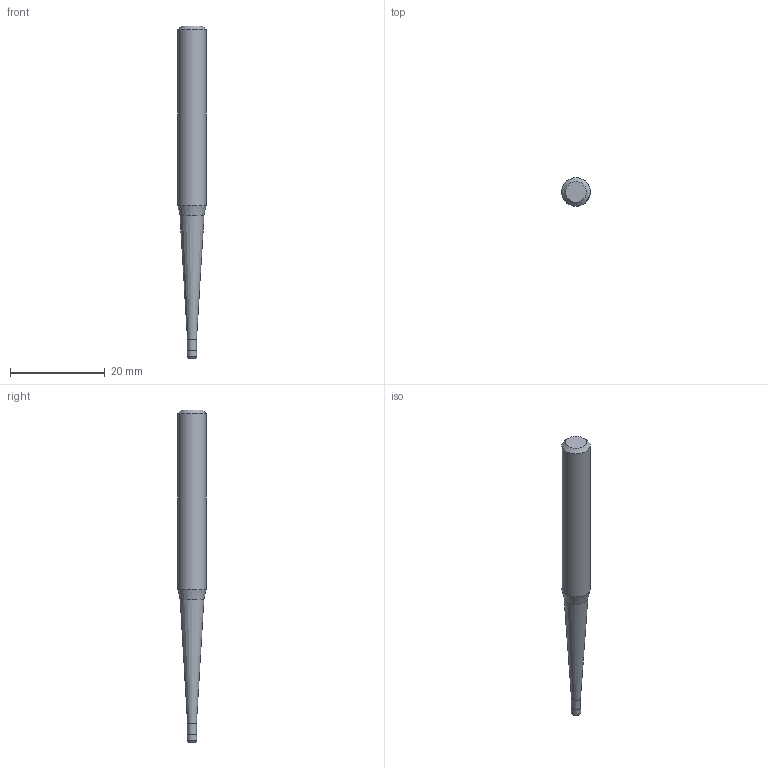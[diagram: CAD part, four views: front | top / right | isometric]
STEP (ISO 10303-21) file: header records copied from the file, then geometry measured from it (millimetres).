
FILE_DESCRIPTION((''),'2;1');
FILE_NAME('C:\Users\nsx150\AppData\Local\Temp\Mastercam 2021\YKS1SUSFZB\TEMP.step','2025-06-23T14:04:43',(''),(''),'STEP Write','Mastercam 2021 ... CNC Software, Inc.','');
FILE_SCHEMA(('AUTOMOTIVE_DESIGN'));
Length unit declared in the file: millimetre
Products named in the file (1): None
Bounding box: 6 x 6 x 70 mm (x, y, z)
Volume: 1393.6 mm3; surface area: 1088.6 mm2
Topology: 2 solids, 2 shells, 11 faces, 16 edges, 9 vertices
Faces by surface type: plane 4, cylinder 3, cone 3, torus 1
Full cylindrical faces by diameter (mm): 1.92 x1, 2 x1, 6 x1
Entity records: 253 total; most frequent: DIRECTION 44, CARTESIAN_POINT 31, AXIS2_PLACEMENT_3D 22, ORIENTED_EDGE 18, EDGE_LOOP 18, STYLED_ITEM 14, ADVANCED_FACE 11, FACE_BOUND 11
